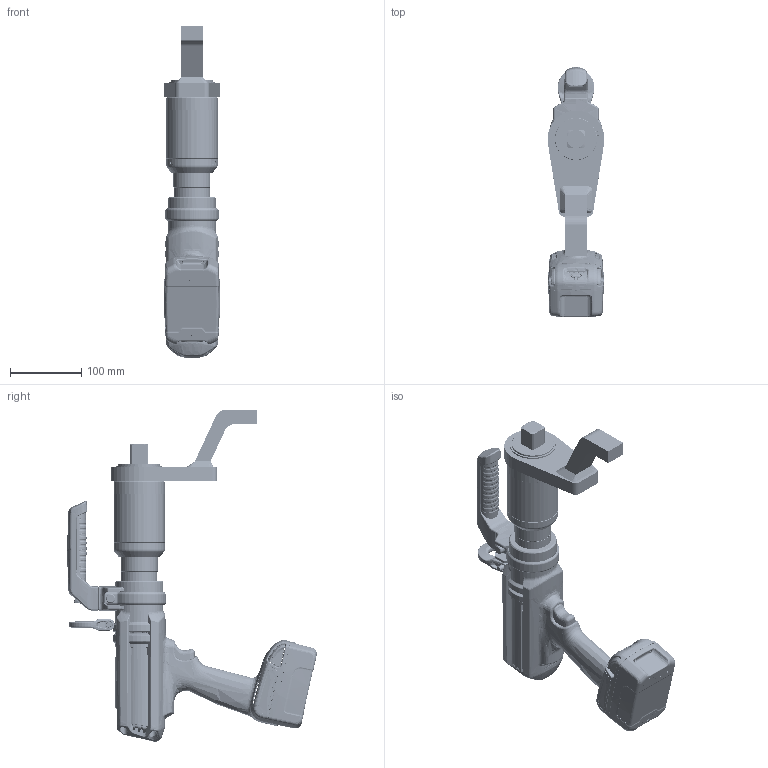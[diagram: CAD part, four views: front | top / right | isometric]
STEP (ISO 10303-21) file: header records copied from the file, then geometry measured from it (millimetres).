
FILE_DESCRIPTION((''),'2;1');
FILE_NAME('TE-VP2-SHELL_ASM','2020-12-01T13:48:41',('rryoung'),(''),'CREO PARAMETRIC BY PTC INC, 2019164','CREO PARAMETRIC BY PTC INC, 2019164','');
FILE_SCHEMA(('CONFIG_CONTROL_DESIGN'));
Products named in the file (8): TE-VP2-SHELLM01; TE-VP2-SHELLM02; TE-VP2-SHELLM03; TE-VP2-SHELLM04; TE-VP2-SHELLM06; TE-VP2-SHELLM14; TE-VP2-SHELLM10; TE-VP2-SHELL_ASM
Assembly tree (7 placements, depth 2):
  TE-VP2-SHELL_ASM
    TE-VP2-SHELLM01
    TE-VP2-SHELLM02
    TE-VP2-SHELLM03
    TE-VP2-SHELLM04
    TE-VP2-SHELLM06
    TE-VP2-SHELLM14
    TE-VP2-SHELLM10
Bounding box: 79.99 x 350.8 x 466.28 mm (x, y, z)
Surface area: 500073.5 mm2 (no closed solid volume)
Topology: 0 solids, 58 shells, 11810 faces, 28155 edges, 16395 vertices
Faces by surface type: bspline 6064, cylinder 2415, plane 1636, torus 668, cone 379, extrusion 351, sphere 288, revolution 9
Entity records: 631566 total; most frequent: CARTESIAN_POINT 405254, ORIENTED_EDGE 55263, DIRECTION 33803, EDGE_CURVE 28000, VERTEX_POINT 16395, B_SPLINE_CURVE_WITH_KNOTS 13182, AXIS2_PLACEMENT_3D 12864, EDGE_LOOP 12008
